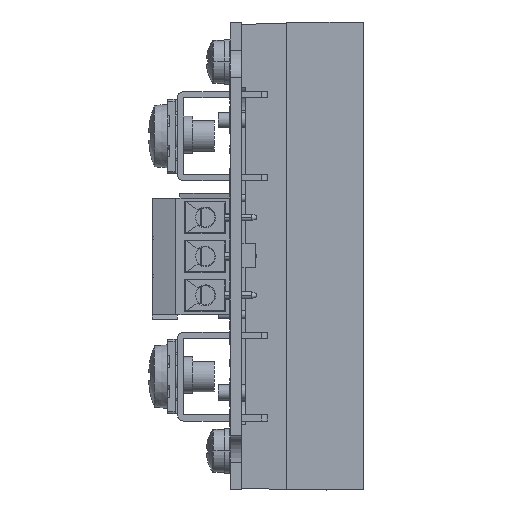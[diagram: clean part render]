
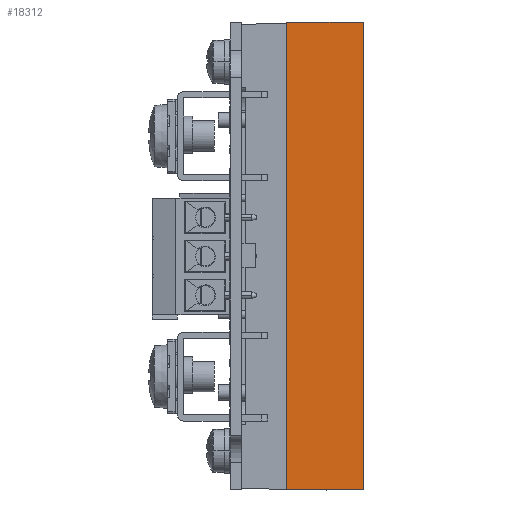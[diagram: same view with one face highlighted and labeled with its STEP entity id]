
A CAD part, left-side view. The second image highlights one B-rep face of the part: STEP entity #18312.
In plain terms, the highlighted planar face has unit normal (-1, 0, 0).
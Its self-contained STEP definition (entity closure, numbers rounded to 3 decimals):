
#2040 = ORIENTED_EDGE ( 'NONE', *, *, #48001, .T. ) ;
#4448 = CARTESIAN_POINT ( 'NONE',  ( -42.5, -4.83, 0.1 ) ) ;
#6103 = VECTOR ( 'NONE', #41296, 1000. ) ;
#17168 = LINE ( 'NONE', #66840, #48741 ) ;
#18312 = ADVANCED_FACE ( 'NONE', ( #64126 ), #61895, .F. ) ;
#21244 = CARTESIAN_POINT ( 'NONE',  ( -42.5, 5.17, -30.4 ) ) ;
#21577 = ORIENTED_EDGE ( 'NONE', *, *, #27912, .F. ) ;
#27288 = DIRECTION ( 'NONE',  ( 0., 1., 0. ) ) ;
#27912 = EDGE_CURVE ( 'NONE', #43365, #52427, #28419, .T. ) ;
#28026 = LINE ( 'NONE', #4448, #6103 ) ;
#28419 = LINE ( 'NONE', #52690, #50530 ) ;
#35134 = ORIENTED_EDGE ( 'NONE', *, *, #67582, .F. ) ;
#35174 = DIRECTION ( 'NONE',  ( 0., -1., 0. ) ) ;
#40052 = DIRECTION ( 'NONE',  ( 0., 0., 1. ) ) ;
#40162 = VECTOR ( 'NONE', #27288, 1000. ) ;
#41296 = DIRECTION ( 'NONE',  ( 0., 0., 1. ) ) ;
#43365 = VERTEX_POINT ( 'NONE', #21244 ) ;
#45934 = CARTESIAN_POINT ( 'NONE',  ( -42.5, -4.83, -30.4 ) ) ;
#48001 = EDGE_CURVE ( 'NONE', #51523, #58658, #28026, .T. ) ;
#48741 = VECTOR ( 'NONE', #35174, 1000. ) ;
#50333 = EDGE_CURVE ( 'NONE', #51523, #43365, #56503, .T. ) ;
#50530 = VECTOR ( 'NONE', #40052, 1000. ) ;
#51523 = VERTEX_POINT ( 'NONE', #45934 ) ;
#52427 = VERTEX_POINT ( 'NONE', #68328 ) ;
#52690 = CARTESIAN_POINT ( 'NONE',  ( -42.5, 5.17, 0.1 ) ) ;
#56503 = LINE ( 'NONE', #64103, #40162 ) ;
#58658 = VERTEX_POINT ( 'NONE', #67140 ) ;
#61895 = PLANE ( 'NONE',  #69757 ) ;
#64103 = CARTESIAN_POINT ( 'NONE',  ( -42.5, 0.17, -30.4 ) ) ;
#64126 = FACE_OUTER_BOUND ( 'NONE', #66260, .T. ) ;
#66260 = EDGE_LOOP ( 'NONE', ( #35134, #21577, #75597, #2040 ) ) ;
#66840 = CARTESIAN_POINT ( 'NONE',  ( -42.5, 0.17, 30.6 ) ) ;
#67140 = CARTESIAN_POINT ( 'NONE',  ( -42.5, -4.83, 30.6 ) ) ;
#67302 = CARTESIAN_POINT ( 'NONE',  ( -42.5, -4.83, 30.6 ) ) ;
#67561 = DIRECTION ( 'NONE',  ( 1., 0., 0. ) ) ;
#67582 = EDGE_CURVE ( 'NONE', #52427, #58658, #17168, .T. ) ;
#68328 = CARTESIAN_POINT ( 'NONE',  ( -42.5, 5.17, 30.6 ) ) ;
#69757 = AXIS2_PLACEMENT_3D ( 'NONE', #67302, #67561, #73476 ) ;
#73476 = DIRECTION ( 'NONE',  ( 0., 0., -1. ) ) ;
#75597 = ORIENTED_EDGE ( 'NONE', *, *, #50333, .F. ) ;
